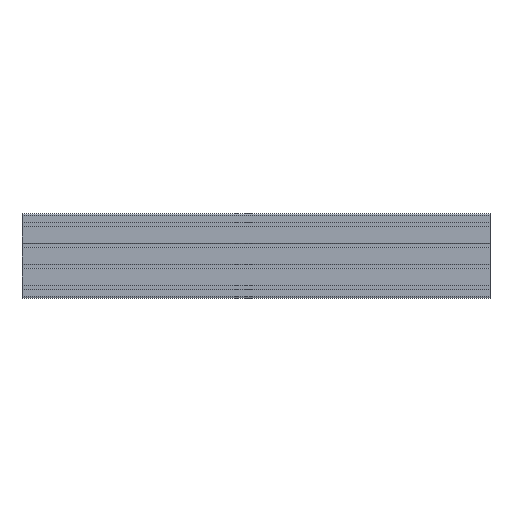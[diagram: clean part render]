
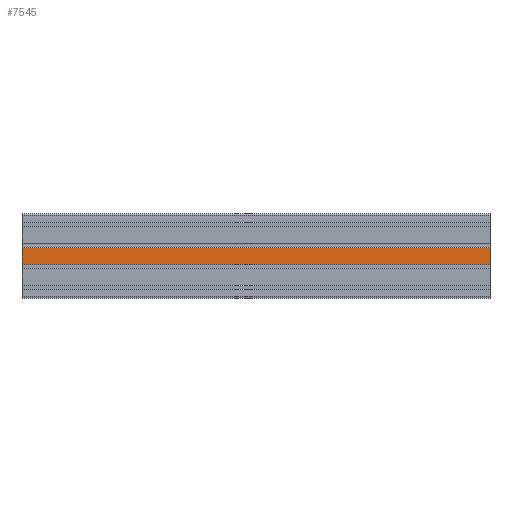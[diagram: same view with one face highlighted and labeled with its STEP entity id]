
A CAD part, top view. The second image highlights one B-rep face of the part: STEP entity #7545.
In plain terms, the highlighted planar face has unit normal (0, 0, 1).
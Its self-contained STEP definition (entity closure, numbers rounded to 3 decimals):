
#242 = CARTESIAN_POINT ( 'NONE',  ( 1000., 18.584, 16.394 ) ) ;
#568 = CARTESIAN_POINT ( 'NONE',  ( 0., 18.584, 16.394 ) ) ;
#824 = CARTESIAN_POINT ( 'NONE',  ( 1000., -17.616, 16.394 ) ) ;
#1096 = DIRECTION ( 'NONE',  ( 0., 1., 0. ) ) ;
#1385 = ORIENTED_EDGE ( 'NONE', *, *, #13705, .T. ) ;
#2248 = PLANE ( 'NONE',  #3571 ) ;
#2736 = VECTOR ( 'NONE', #6904, 1000. ) ;
#3571 = AXIS2_PLACEMENT_3D ( 'NONE', #242, #5422, #1096 ) ;
#3974 = VERTEX_POINT ( 'NONE', #13790 ) ;
#4391 = VERTEX_POINT ( 'NONE', #568 ) ;
#4875 = CARTESIAN_POINT ( 'NONE',  ( 1000., 18.584, 16.394 ) ) ;
#5079 = DIRECTION ( 'NONE',  ( -1., 0., 0. ) ) ;
#5151 = CARTESIAN_POINT ( 'NONE',  ( 1000., 18.584, 16.394 ) ) ;
#5280 = EDGE_CURVE ( 'NONE', #4391, #3974, #12710, .T. ) ;
#5422 = DIRECTION ( 'NONE',  ( 0., 0., -1. ) ) ;
#5591 = VECTOR ( 'NONE', #13940, 1000. ) ;
#6707 = VECTOR ( 'NONE', #11653, 1000. ) ;
#6904 = DIRECTION ( 'NONE',  ( 0., -1., 0. ) ) ;
#7033 = VERTEX_POINT ( 'NONE', #13909 ) ;
#7119 = VERTEX_POINT ( 'NONE', #8827 ) ;
#7243 = LINE ( 'NONE', #5151, #6707 ) ;
#7353 = CARTESIAN_POINT ( 'NONE',  ( 0., 18.584, 16.394 ) ) ;
#7545 = ADVANCED_FACE ( 'NONE', ( #7659 ), #2248, .F. ) ;
#7656 = ORIENTED_EDGE ( 'NONE', *, *, #13712, .F. ) ;
#7659 = FACE_OUTER_BOUND ( 'NONE', #10933, .T. ) ;
#8271 = ORIENTED_EDGE ( 'NONE', *, *, #9597, .F. ) ;
#8827 = CARTESIAN_POINT ( 'NONE',  ( 1000., 18.584, 16.394 ) ) ;
#9346 = LINE ( 'NONE', #4875, #2736 ) ;
#9597 = EDGE_CURVE ( 'NONE', #7119, #7033, #9346, .T. ) ;
#10566 = LINE ( 'NONE', #824, #11775 ) ;
#10933 = EDGE_LOOP ( 'NONE', ( #10959, #7656, #8271, #1385 ) ) ;
#10959 = ORIENTED_EDGE ( 'NONE', *, *, #5280, .T. ) ;
#11653 = DIRECTION ( 'NONE',  ( -1., 0., 0. ) ) ;
#11775 = VECTOR ( 'NONE', #5079, 1000. ) ;
#12710 = LINE ( 'NONE', #7353, #5591 ) ;
#13705 = EDGE_CURVE ( 'NONE', #7119, #4391, #7243, .T. ) ;
#13712 = EDGE_CURVE ( 'NONE', #7033, #3974, #10566, .T. ) ;
#13790 = CARTESIAN_POINT ( 'NONE',  ( 0., -17.616, 16.394 ) ) ;
#13909 = CARTESIAN_POINT ( 'NONE',  ( 1000., -17.616, 16.394 ) ) ;
#13940 = DIRECTION ( 'NONE',  ( 0., -1., 0. ) ) ;
